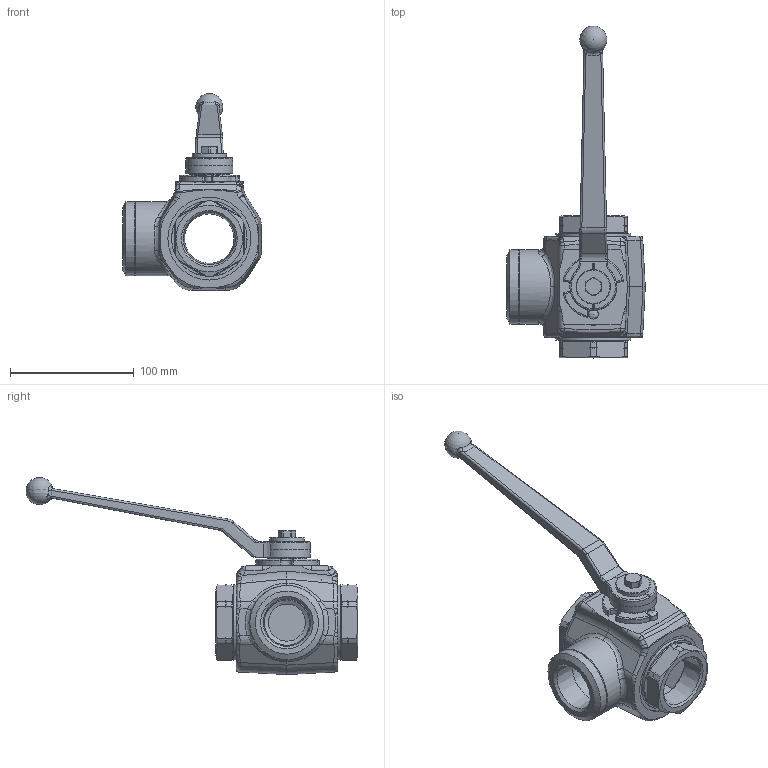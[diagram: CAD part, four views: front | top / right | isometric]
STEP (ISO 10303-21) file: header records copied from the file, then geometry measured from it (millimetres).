
FILE_DESCRIPTION( ( 'Unknown' ), '1' );
FILE_NAME( 'H:/PISTER/3D-MODELLE/SK3 stp/SK3 DN32 5_4 NPT.stp', 'Unknown', ( 'Unknown' ), ( 'Unknown' ), 'PSStep 14.0', 'Unknown', ' ' );
FILE_SCHEMA( ( 'AUTOMOTIVE_DESIGN { 1 0 10303 214 1 1 1 1 }' ) );
Length unit declared in the file: millimetre
Products named in the file (10): Assem1; 56-032-048-oa9; 58-28740-01; 58-0440-003; 58-0933-163; 09-17-001; 04-032-054-oa10; 04-032-054-oa11; Griff_SW17_; 01-032-103-oa12
Assembly tree (9 placements, depth 2):
  Assem1
    56-032-048-oa9
    58-28740-01
    58-0440-003
    58-0933-163
    09-17-001
    04-032-054-oa10
    04-032-054-oa11
    Griff_SW17_
    01-032-103-oa12
Bounding box: 112 x 268.32 x 159.4 mm (x, y, z)
Volume: 285543.8 mm3; surface area: 103430.1 mm2
Topology: 9 solids, 9 shells, 546 faces, 1403 edges, 865 vertices
Faces by surface type: cylinder 151, plane 145, bspline 110, cone 82, torus 47, sphere 11
Full cylindrical faces by diameter (mm): 6.8 x1, 7.98 x1, 8 x1, 9.2 x1, 24 x2, 28 x1, 30 x1, 32 x1, 37.236 x1, 56.3 x2, 56.35 x2, 60 x2, 61 x2, 67 x2, 69 x2
Entity records: 27315 total; most frequent: CARTESIAN_POINT 10856, ORIENTED_EDGE 2606, DIRECTION 2296, EDGE_CURVE 1303, AXIS2_PLACEMENT_3D 955, VERTEX_POINT 836, EDGE_LOOP 624, FACE_OUTER_BOUND 577
